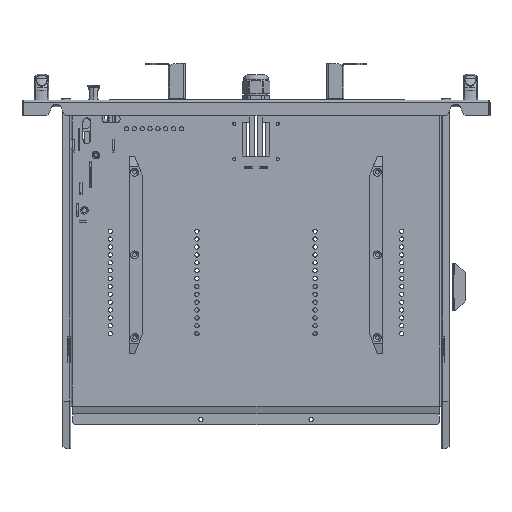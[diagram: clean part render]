
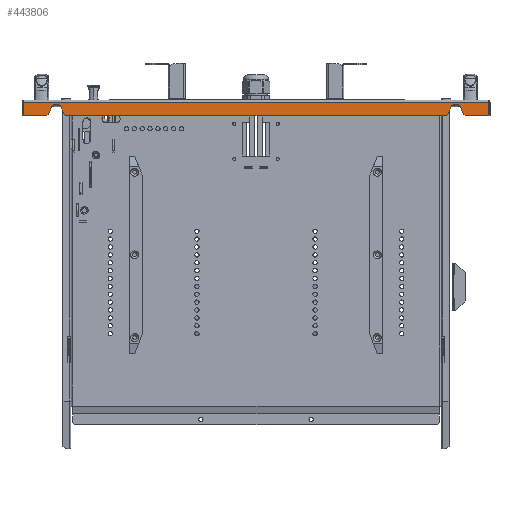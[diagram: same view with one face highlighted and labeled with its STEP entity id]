
A CAD part, front view. The second image highlights one B-rep face of the part: STEP entity #443806.
In plain terms, the highlighted planar face has unit normal (0, -1, 0).
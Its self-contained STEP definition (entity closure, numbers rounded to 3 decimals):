
#438021=CARTESIAN_POINT(' ',(1.6,0.,-2.5));
#438022=VERTEX_POINT(' ',#438021);
#438036=CARTESIAN_POINT(' ',(1.6,0.,-2.5));
#438041=DIRECTION(' ',(1.,0.,0.));
#438046=VECTOR(' ',#438041,1.);
#438051=LINE('',#438036,#438046);
#438056=CARTESIAN_POINT(' ',(592.4,0.,-2.5));
#438057=VERTEX_POINT(' ',#438056);
#438061=EDGE_CURVE(' ',#438022,#438057,#438051,.T.);
#443086=DIRECTION(' ',(-0.,-1.,0.));
#443091=CARTESIAN_POINT(' ',(1.6,0.,-20.));
#443096=DIRECTION(' ',(1.,-0.,0.));
#443101=AXIS2_PLACEMENT_3D(' ',#443091,#443086,#443096);
#443106=PLANE('NONE',#443101);
#443111=CARTESIAN_POINT(' ',(31.196,0.,-20.));
#443116=DIRECTION(' ',(0.809,0.,0.588));
#443121=VECTOR(' ',#443116,1.);
#443126=LINE('',#443111,#443121);
#443131=CARTESIAN_POINT(' ',(31.196,0.,-20.));
#443132=VERTEX_POINT(' ',#443131);
#443136=CARTESIAN_POINT(' ',(33.674,0.,-18.2));
#443137=VERTEX_POINT(' ',#443136);
#443141=EDGE_CURVE(' ',#443132,#443137,#443126,.T.);
#443146=ORIENTED_EDGE(' ',*,*,#443141,.T.);
#443151=CARTESIAN_POINT(' ',(33.674,0.,-18.2));
#443156=DIRECTION(' ',(0.391,0.,0.921));
#443161=VECTOR(' ',#443156,1.);
#443166=LINE('',#443151,#443161);
#443171=CARTESIAN_POINT(' ',(37.818,0.,-8.437));
#443172=VERTEX_POINT(' ',#443171);
#443176=EDGE_CURVE(' ',#443137,#443172,#443166,.T.);
#443181=ORIENTED_EDGE(' ',*,*,#443176,.T.);
#443186=CARTESIAN_POINT(' ',(41.5,0.,-10.));
#443191=DIRECTION(' ',(0.,1.,0.));
#443196=DIRECTION(' ',(-0.921,0.,0.391));
#443201=AXIS2_PLACEMENT_3D(' ',#443186,#443191,#443196);
#443206=CIRCLE('',#443201,4.);
#443211=CARTESIAN_POINT(' ',(41.5,0.,-6.));
#443212=VERTEX_POINT(' ',#443211);
#443216=EDGE_CURVE(' ',#443172,#443212,#443206,.T.);
#443221=ORIENTED_EDGE(' ',*,*,#443216,.T.);
#443226=CARTESIAN_POINT(' ',(41.5,0.,-6.));
#443231=DIRECTION(' ',(1.,0.,0.));
#443236=VECTOR(' ',#443231,1.);
#443241=LINE('',#443226,#443236);
#443246=CARTESIAN_POINT(' ',(45.5,0.,-6.));
#443247=VERTEX_POINT(' ',#443246);
#443251=EDGE_CURVE(' ',#443212,#443247,#443241,.T.);
#443256=ORIENTED_EDGE(' ',*,*,#443251,.T.);
#443261=CARTESIAN_POINT(' ',(45.501,0.,-9.999));
#443266=DIRECTION(' ',(0.,1.,0.));
#443271=DIRECTION(' ',(0.,0.,1.));
#443276=AXIS2_PLACEMENT_3D(' ',#443261,#443266,#443271);
#443281=CIRCLE('',#443276,3.999);
#443286=CARTESIAN_POINT(' ',(49.182,0.,-8.437));
#443287=VERTEX_POINT(' ',#443286);
#443291=EDGE_CURVE(' ',#443247,#443287,#443281,.T.);
#443296=ORIENTED_EDGE(' ',*,*,#443291,.T.);
#443301=CARTESIAN_POINT(' ',(49.182,0.,-8.437));
#443306=DIRECTION(' ',(0.391,0.,-0.921));
#443311=VECTOR(' ',#443306,1.);
#443316=LINE('',#443301,#443311);
#443321=CARTESIAN_POINT(' ',(53.326,0.,-18.2));
#443322=VERTEX_POINT(' ',#443321);
#443326=EDGE_CURVE(' ',#443287,#443322,#443316,.T.);
#443331=ORIENTED_EDGE(' ',*,*,#443326,.T.);
#443336=CARTESIAN_POINT(' ',(53.326,0.,-18.2));
#443341=DIRECTION(' ',(0.809,0.,-0.588));
#443346=VECTOR(' ',#443341,1.);
#443351=LINE('',#443336,#443346);
#443356=CARTESIAN_POINT(' ',(55.804,0.,-20.));
#443357=VERTEX_POINT(' ',#443356);
#443361=EDGE_CURVE(' ',#443322,#443357,#443351,.T.);
#443366=ORIENTED_EDGE(' ',*,*,#443361,.T.);
#443371=CARTESIAN_POINT(' ',(55.804,0.,-20.));
#443376=DIRECTION(' ',(1.,0.,0.));
#443381=VECTOR(' ',#443376,1.);
#443386=LINE('',#443371,#443381);
#443391=CARTESIAN_POINT(' ',(538.196,0.,-20.));
#443392=VERTEX_POINT(' ',#443391);
#443396=EDGE_CURVE(' ',#443357,#443392,#443386,.T.);
#443401=ORIENTED_EDGE(' ',*,*,#443396,.T.);
#443406=CARTESIAN_POINT(' ',(540.674,0.,-18.2));
#443411=DIRECTION(' ',(-0.809,0.,-0.588));
#443416=VECTOR(' ',#443411,1.);
#443421=LINE('',#443406,#443416);
#443426=CARTESIAN_POINT(' ',(540.674,0.,-18.2));
#443427=VERTEX_POINT(' ',#443426);
#443431=EDGE_CURVE(' ',#443427,#443392,#443421,.T.);
#443436=ORIENTED_EDGE(' ',*,*,#443431,.F.);
#443441=CARTESIAN_POINT(' ',(544.818,0.,-8.437));
#443446=DIRECTION(' ',(-0.391,0.,-0.921));
#443451=VECTOR(' ',#443446,1.);
#443456=LINE('',#443441,#443451);
#443461=CARTESIAN_POINT(' ',(544.818,0.,-8.437));
#443462=VERTEX_POINT(' ',#443461);
#443466=EDGE_CURVE(' ',#443462,#443427,#443456,.T.);
#443471=ORIENTED_EDGE(' ',*,*,#443466,.F.);
#443476=CARTESIAN_POINT(' ',(548.499,0.,-9.999));
#443481=DIRECTION(' ',(0.,-1.,0.));
#443486=DIRECTION(' ',(0.,0.,1.));
#443491=AXIS2_PLACEMENT_3D(' ',#443476,#443481,#443486);
#443496=CIRCLE('',#443491,3.999);
#443501=CARTESIAN_POINT(' ',(548.5,0.,-6.));
#443502=VERTEX_POINT(' ',#443501);
#443506=EDGE_CURVE(' ',#443502,#443462,#443496,.T.);
#443511=ORIENTED_EDGE(' ',*,*,#443506,.F.);
#443516=CARTESIAN_POINT(' ',(552.5,0.,-6.));
#443521=DIRECTION(' ',(-1.,0.,0.));
#443526=VECTOR(' ',#443521,1.);
#443531=LINE('',#443516,#443526);
#443536=CARTESIAN_POINT(' ',(552.5,0.,-6.));
#443537=VERTEX_POINT(' ',#443536);
#443541=EDGE_CURVE(' ',#443537,#443502,#443531,.T.);
#443546=ORIENTED_EDGE(' ',*,*,#443541,.F.);
#443551=CARTESIAN_POINT(' ',(552.5,0.,-9.999));
#443556=DIRECTION(' ',(0.,-1.,0.));
#443561=DIRECTION(' ',(0.921,0.,0.391));
#443566=AXIS2_PLACEMENT_3D(' ',#443551,#443556,#443561);
#443571=CIRCLE('',#443566,3.999);
#443576=CARTESIAN_POINT(' ',(556.182,0.,-8.437));
#443577=VERTEX_POINT(' ',#443576);
#443581=EDGE_CURVE(' ',#443577,#443537,#443571,.T.);
#443586=ORIENTED_EDGE(' ',*,*,#443581,.F.);
#443591=CARTESIAN_POINT(' ',(560.326,0.,-18.2));
#443596=DIRECTION(' ',(-0.391,0.,0.921));
#443601=VECTOR(' ',#443596,1.);
#443606=LINE('',#443591,#443601);
#443611=CARTESIAN_POINT(' ',(560.326,0.,-18.2));
#443612=VERTEX_POINT(' ',#443611);
#443616=EDGE_CURVE(' ',#443612,#443577,#443606,.T.);
#443621=ORIENTED_EDGE(' ',*,*,#443616,.F.);
#443626=CARTESIAN_POINT(' ',(562.804,0.,-20.));
#443631=DIRECTION(' ',(-0.809,0.,0.588));
#443636=VECTOR(' ',#443631,1.);
#443641=LINE('',#443626,#443636);
#443646=CARTESIAN_POINT(' ',(562.804,0.,-20.));
#443647=VERTEX_POINT(' ',#443646);
#443651=EDGE_CURVE(' ',#443647,#443612,#443641,.T.);
#443656=ORIENTED_EDGE(' ',*,*,#443651,.F.);
#443661=CARTESIAN_POINT(' ',(562.804,0.,-20.));
#443666=DIRECTION(' ',(1.,0.,0.));
#443671=VECTOR(' ',#443666,1.);
#443676=LINE('',#443661,#443671);
#443681=CARTESIAN_POINT(' ',(592.4,0.,-20.));
#443682=VERTEX_POINT(' ',#443681);
#443686=EDGE_CURVE(' ',#443647,#443682,#443676,.T.);
#443691=ORIENTED_EDGE(' ',*,*,#443686,.T.);
#443696=CARTESIAN_POINT(' ',(592.4,0.,-2.5));
#443701=DIRECTION(' ',(0.,0.,-1.));
#443706=VECTOR(' ',#443701,1.);
#443711=LINE('',#443696,#443706);
#443716=EDGE_CURVE(' ',#438057,#443682,#443711,.T.);
#443721=ORIENTED_EDGE(' ',*,*,#443716,.F.);
#443726=ORIENTED_EDGE(' ',*,*,#438061,.F.);
#443731=CARTESIAN_POINT(' ',(1.6,0.,-2.5));
#443736=DIRECTION(' ',(0.,0.,-1.));
#443741=VECTOR(' ',#443736,1.);
#443746=LINE('',#443731,#443741);
#443751=CARTESIAN_POINT(' ',(1.6,0.,-20.));
#443752=VERTEX_POINT(' ',#443751);
#443756=EDGE_CURVE(' ',#438022,#443752,#443746,.T.);
#443761=ORIENTED_EDGE(' ',*,*,#443756,.T.);
#443766=CARTESIAN_POINT(' ',(1.6,0.,-20.));
#443771=DIRECTION(' ',(1.,0.,0.));
#443776=VECTOR(' ',#443771,1.);
#443781=LINE('',#443766,#443776);
#443786=EDGE_CURVE(' ',#443752,#443132,#443781,.T.);
#443791=ORIENTED_EDGE(' ',*,*,#443786,.T.);
#443796=EDGE_LOOP(' ',(#443146,#443181,#443221,#443256,#443296,#443331,#443366,#443401,#443436,#443471,#443511,#443546,#443586,#443621,#443656,#443691,#443721,#443726,#443761,#443791));
#443801=FACE_OUTER_BOUND(' ',#443796,.T.);
#443806=ADVANCED_FACE('NONE',(#443801),#443106,.T.);
